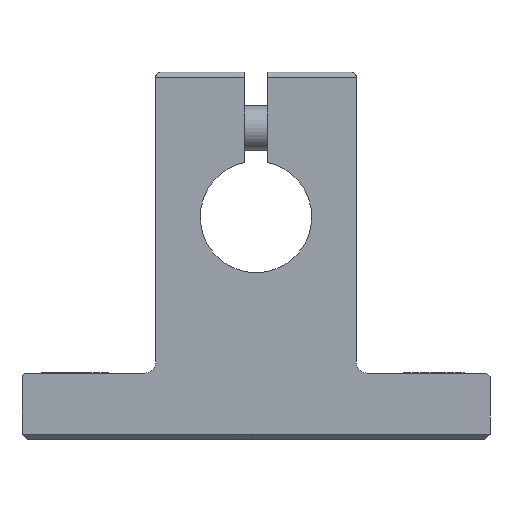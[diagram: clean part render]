
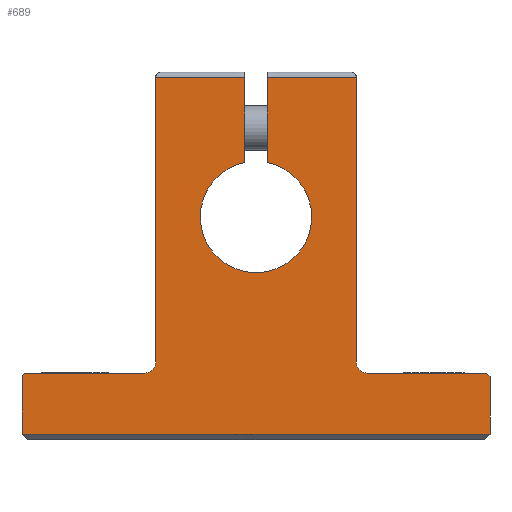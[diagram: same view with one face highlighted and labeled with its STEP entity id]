
A CAD part, left-side view. The second image highlights one B-rep face of the part: STEP entity #689.
In plain terms, the highlighted planar face has unit normal (-1, 0, 0).
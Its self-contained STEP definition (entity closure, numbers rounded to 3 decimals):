
#441=CARTESIAN_POINT('',(0.0,1.,12.5));
#442=VERTEX_POINT('',#441);
#460=CARTESIAN_POINT('',(0.0,9.0,12.5));
#461=VERTEX_POINT('',#460);
#469=CARTESIAN_POINT('',(0.0,9.0,12.5));
#470=DIRECTION('',(0.0,-1.0,0.0));
#471=VECTOR('',#470,8.);
#472=LINE('',#469,#471);
#473=EDGE_CURVE('',#461,#442,#472,.T.);
#559=CARTESIAN_POINT('',(0.0,0.,-5.422));
#560=DIRECTION('',(1.0,0.0,0.0));
#561=DIRECTION('',(0.0,0.0,-1.0));
#562=AXIS2_PLACEMENT_3D('',#559,#560,#561);
#563=PLANE('',#562);
#564=ORIENTED_EDGE('',*,*,#473,.F.);
#565=CARTESIAN_POINT('',(0.0,9.0,-13.));
#566=VERTEX_POINT('',#565);
#567=CARTESIAN_POINT('',(0.0,9.0,-13.));
#568=DIRECTION('',(0.0,0.0,1.0));
#569=VECTOR('',#568,25.5);
#570=LINE('',#567,#569);
#571=EDGE_CURVE('',#566,#461,#570,.T.);
#572=ORIENTED_EDGE('',*,*,#571,.F.);
#573=CARTESIAN_POINT('',(0.0,10.0,-14.));
#574=VERTEX_POINT('',#573);
#575=CARTESIAN_POINT('',(0.0,10.,-13.));
#576=DIRECTION('',(-1.0,0.0,0.0));
#577=DIRECTION('',(0.0,-0.707,-0.707));
#578=AXIS2_PLACEMENT_3D('',#575,#576,#577);
#579=CIRCLE('',#578,1.0);
#580=EDGE_CURVE('',#574,#566,#579,.T.);
#581=ORIENTED_EDGE('',*,*,#580,.F.);
#582=CARTESIAN_POINT('',(0.0,20.5,-14.));
#583=VERTEX_POINT('',#582);
#584=CARTESIAN_POINT('',(0.0,20.5,-14.));
#585=DIRECTION('',(0.0,-1.0,0.0));
#586=VECTOR('',#585,10.5);
#587=LINE('',#584,#586);
#588=EDGE_CURVE('',#583,#574,#587,.T.);
#589=ORIENTED_EDGE('',*,*,#588,.F.);
#590=CARTESIAN_POINT('',(0.0,21.,-14.5));
#591=VERTEX_POINT('',#590);
#592=CARTESIAN_POINT('',(0.0,20.5,-14.5));
#593=DIRECTION('',(1.0,0.0,0.0));
#594=DIRECTION('',(0.0,0.707,0.707));
#595=AXIS2_PLACEMENT_3D('',#592,#593,#594);
#596=CIRCLE('',#595,0.5);
#597=EDGE_CURVE('',#591,#583,#596,.T.);
#598=ORIENTED_EDGE('',*,*,#597,.F.);
#599=CARTESIAN_POINT('',(0.0,21.,-19.5));
#600=VERTEX_POINT('',#599);
#601=CARTESIAN_POINT('',(0.0,21.,-19.5));
#602=DIRECTION('',(0.0,0.0,1.0));
#603=VECTOR('',#602,5.);
#604=LINE('',#601,#603);
#605=EDGE_CURVE('',#600,#591,#604,.T.);
#606=ORIENTED_EDGE('',*,*,#605,.F.);
#607=CARTESIAN_POINT('',(0.0,-21.,-19.5));
#608=VERTEX_POINT('',#607);
#609=CARTESIAN_POINT('',(0.0,-21.,-19.5));
#610=DIRECTION('',(0.0,1.0,0.0));
#611=VECTOR('',#610,42.);
#612=LINE('',#609,#611);
#613=EDGE_CURVE('',#608,#600,#612,.T.);
#614=ORIENTED_EDGE('',*,*,#613,.F.);
#615=CARTESIAN_POINT('',(0.0,-21.,-14.3));
#616=VERTEX_POINT('',#615);
#617=CARTESIAN_POINT('',(0.0,-21.,-14.3));
#618=DIRECTION('',(0.0,0.0,-1.0));
#619=VECTOR('',#618,5.2);
#620=LINE('',#617,#619);
#621=EDGE_CURVE('',#616,#608,#620,.T.);
#622=ORIENTED_EDGE('',*,*,#621,.F.);
#623=CARTESIAN_POINT('',(0.0,-20.7,-14.));
#624=VERTEX_POINT('',#623);
#625=CARTESIAN_POINT('',(0.0,-20.7,-14.));
#626=DIRECTION('',(0.0,-0.707,-0.707));
#627=VECTOR('',#626,0.424);
#628=LINE('',#625,#627);
#629=EDGE_CURVE('',#624,#616,#628,.T.);
#630=ORIENTED_EDGE('',*,*,#629,.F.);
#631=CARTESIAN_POINT('',(0.0,-10.0,-14.));
#632=VERTEX_POINT('',#631);
#633=CARTESIAN_POINT('',(0.0,-10.0,-14.));
#634=DIRECTION('',(0.0,-1.0,0.0));
#635=VECTOR('',#634,10.7);
#636=LINE('',#633,#635);
#637=EDGE_CURVE('',#632,#624,#636,.T.);
#638=ORIENTED_EDGE('',*,*,#637,.F.);
#639=CARTESIAN_POINT('',(0.0,-9.0,-13.0));
#640=VERTEX_POINT('',#639);
#641=CARTESIAN_POINT('',(0.0,-10.0,-13.));
#642=DIRECTION('',(-1.,0.0,0.0));
#643=DIRECTION('',(0.0,0.707,-0.707));
#644=AXIS2_PLACEMENT_3D('',#641,#642,#643);
#645=CIRCLE('',#644,1.);
#646=EDGE_CURVE('',#640,#632,#645,.T.);
#647=ORIENTED_EDGE('',*,*,#646,.F.);
#648=CARTESIAN_POINT('',(0.0,-9.0,12.5));
#649=VERTEX_POINT('',#648);
#650=CARTESIAN_POINT('',(0.0,-9.0,12.5));
#651=DIRECTION('',(0.0,0.0,-1.0));
#652=VECTOR('',#651,25.5);
#653=LINE('',#650,#652);
#654=EDGE_CURVE('',#649,#640,#653,.T.);
#655=ORIENTED_EDGE('',*,*,#654,.F.);
#656=CARTESIAN_POINT('',(0.0,-1.,12.5));
#657=VERTEX_POINT('',#656);
#658=CARTESIAN_POINT('',(0.0,-1.,12.5));
#659=DIRECTION('',(0.0,-1.0,0.0));
#660=VECTOR('',#659,8.);
#661=LINE('',#658,#660);
#662=EDGE_CURVE('',#657,#649,#661,.T.);
#663=ORIENTED_EDGE('',*,*,#662,.F.);
#664=CARTESIAN_POINT('',(0.0,-1.,4.899));
#665=VERTEX_POINT('',#664);
#666=CARTESIAN_POINT('',(0.0,-1.,4.899));
#667=DIRECTION('',(0.0,0.0,1.0));
#668=VECTOR('',#667,7.601);
#669=LINE('',#666,#668);
#670=EDGE_CURVE('',#665,#657,#669,.T.);
#671=ORIENTED_EDGE('',*,*,#670,.F.);
#672=CARTESIAN_POINT('',(0.0,1.,4.899));
#673=VERTEX_POINT('',#672);
#674=CARTESIAN_POINT('',(0.0,0.0,0.0));
#675=DIRECTION('',(-1.0,0.0,0.0));
#676=DIRECTION('',(0.0,-1.0,0.0));
#677=AXIS2_PLACEMENT_3D('',#674,#675,#676);
#678=CIRCLE('',#677,5.0);
#679=EDGE_CURVE('',#673,#665,#678,.T.);
#680=ORIENTED_EDGE('',*,*,#679,.F.);
#681=CARTESIAN_POINT('',(0.0,1.,12.5));
#682=DIRECTION('',(0.0,0.0,-1.0));
#683=VECTOR('',#682,7.601);
#684=LINE('',#681,#683);
#685=EDGE_CURVE('',#442,#673,#684,.T.);
#686=ORIENTED_EDGE('',*,*,#685,.F.);
#687=EDGE_LOOP('',(#564,#572,#581,#589,#598,#606,#614,#622,#630,#638,#647,#655,#663,#671,#680,#686));
#688=FACE_OUTER_BOUND('',#687,.T.);
#689=ADVANCED_FACE('',(#688),#563,.F.);
